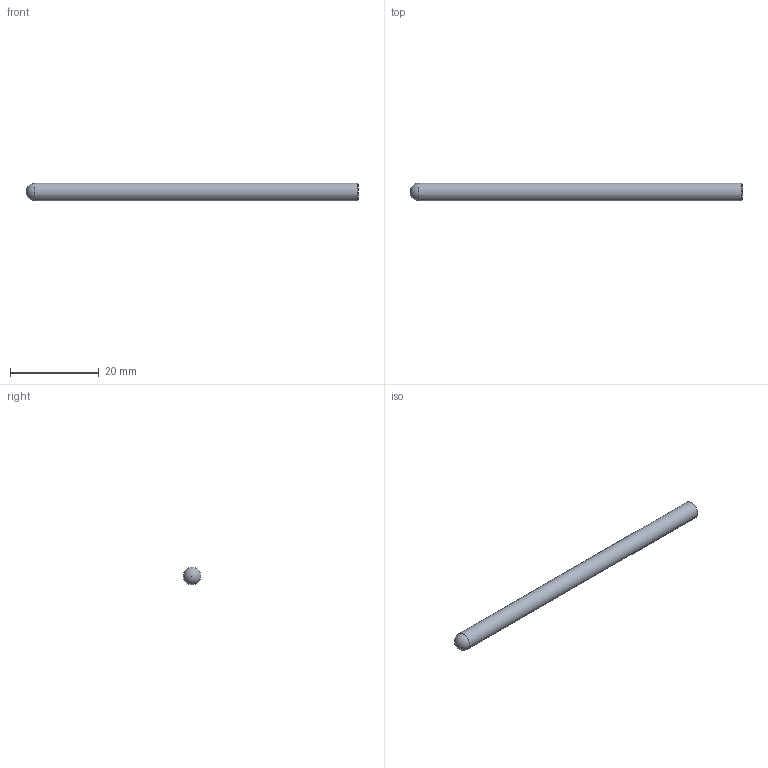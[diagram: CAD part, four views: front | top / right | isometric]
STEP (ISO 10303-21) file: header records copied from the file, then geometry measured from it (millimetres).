
FILE_DESCRIPTION(/* description */ (''),/* implementation_level */ '2;1');
FILE_NAME(/* name */ 'HSXB2040 0475.stp',/* time_stamp */ '2026-08-01T17:10:24+08:00',/* author */ (''),/* organization */ (''),/* preprocessor_version */ 'ST-DEVELOPER v16',/* originating_system */ 'SIEMENS PLM Software NX 10.0',/* authorisation */ '');
FILE_SCHEMA (('CONFIG_CONTROL_DESIGN'));
Length unit declared in the file: millimetre
Products named in the file (1): HSXB2040 0475_dxf
Bounding box: 75 x 4 x 4 mm (x, y, z)
Volume: 933.9 mm3; surface area: 953.5 mm2
Topology: 1 solids, 1 shells, 4 faces, 8 edges, 5 vertices
Faces by surface type: plane 1, sphere 1, cylinder 1, cone 1
Full cylindrical faces by diameter (mm): 4 x1
Entity records: 158 total; most frequent: DIRECTION 16, CARTESIAN_POINT 11, AXIS2_PLACEMENT_3D 8, PERSON_AND_ORGANIZATION 7, ORGANIZATION 7, EDGE_LOOP 6, ORIENTED_EDGE 6, DATE_AND_TIME 5
